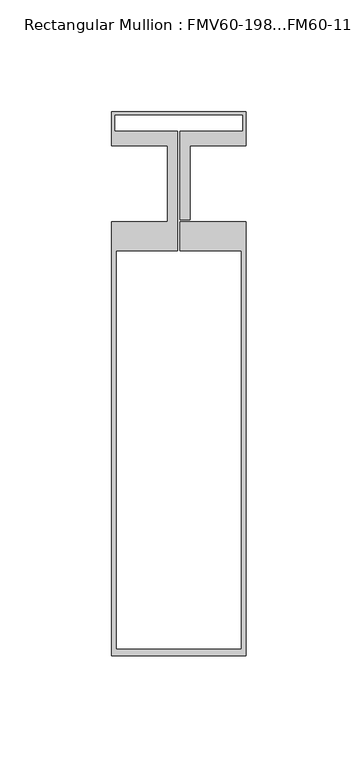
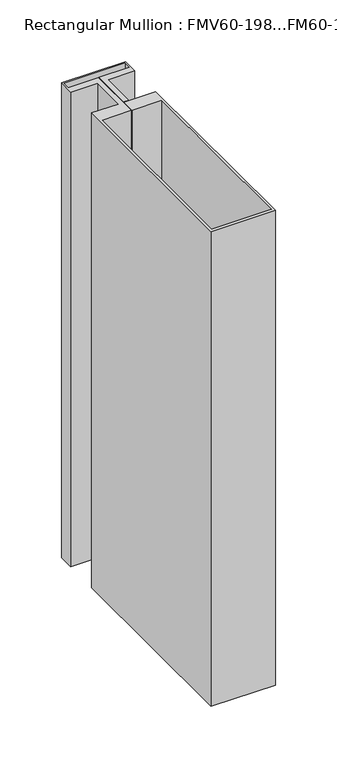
"""IFC4 building model written with IfcOpenShell, lengths in millimetres: member geometry, Rectangular Mullion : FMV60-198...FM60-11."""

from ifc_helpers import new_model, si_unit, frame, origin, place, context, project, spatial, polyline, outline, extrude, source, transform, mapped, element, save


def rectangular_mullion_fmv60_198_fm60_11_caea0c3b(model_context):
    return source(origin(), model_context, "Body", "SweptSolid", [
        extrude(outline(polyline([(30.0, -16.9999336), (30.0, -210.9989914), (-30.0, -210.9989914), (-30.0, -16.9999336), (-4.9995097, -16.9999336), (-4.9995097, 17.0000664), (-30.0, 17.0000664), (-30.0, 32.0039104), (30.0, 32.0039104), (30.0, 17.0000664), (5.0, 17.0000664), (5.0, -16.1999336), (0.5, -16.1999336), (0.5, 23.4439745), (28.7000412, 23.4439745), (28.7000412, 30.7039104), (-28.7000412, 30.7039104), (-28.7000412, 23.4439745), (-0.5, 23.4439745), (-0.5, -29.9945136), (-28.0, -29.9945136), (-28.0, -207.9989914), (28.0, -207.9989914), (28.0, -29.9945136), (0.5, -29.9945136), (0.5, -16.9999336), (30.0, -16.9999336)])), frame((0.0, 0.0, -469.9842301), z_axis=(0.0, 0.0, 1.0), x_axis=(1.0, 0.0, 0.0)), (0.0, 0.0, 1.0), 469.9842301),
    ])


if __name__ == "__main__":
    model = new_model("IFC4")
    model_context = context("Model", 3, world=origin())
    ifc_project = project(units=[si_unit("LENGTHUNIT", "METRE", prefix="MILLI")], contexts=[model_context])
    site = spatial("IfcSite", under=ifc_project)
    building = spatial("IfcBuilding", under=site)
    placement = place(None, origin())
    rectangular_mullion_fmv60_198_fm60_11_shape = rectangular_mullion_fmv60_198_fm60_11_caea0c3b(model_context)
    element("IfcMember", 1, ObjectType="Rectangular Mullion : FMV60-198...FM60-11", at=placement, inside=building, context=model_context, shape_type="MappedRepresentation", body=[
        mapped(rectangular_mullion_fmv60_198_fm60_11_shape, transform((0.0, 0.0, 0.0), x_axis=(1.0, 0.0, 0.0), y_axis=(0.0, 1.0, 0.0), z_axis=(0.0, 0.0, 1.0))),
    ])
    save(model, "model.ifc")
